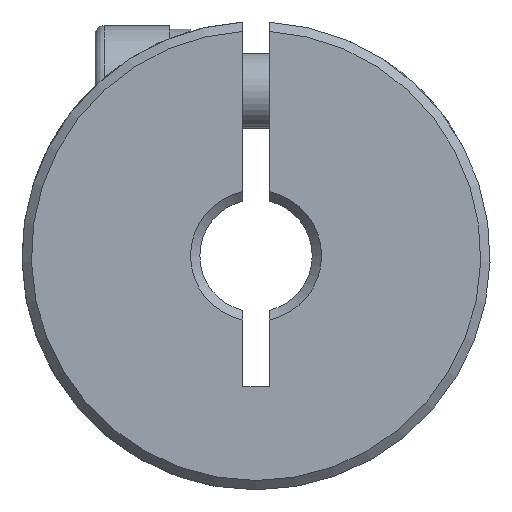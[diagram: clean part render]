
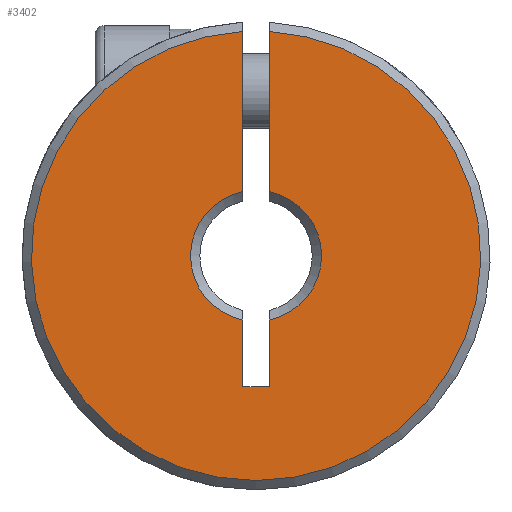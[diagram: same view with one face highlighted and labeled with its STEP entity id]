
A CAD part, front view. The second image highlights one B-rep face of the part: STEP entity #3402.
In plain terms, the highlighted planar face has unit normal (0, -1, 0).
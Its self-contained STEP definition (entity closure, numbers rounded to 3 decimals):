
#38 = CARTESIAN_POINT ( 'NONE',  ( 0., 0.25, 0. ) ) ;
#47 = VERTEX_POINT ( 'NONE', #1064 ) ;
#80 = LINE ( 'NONE', #1657, #2075 ) ;
#83 = EDGE_CURVE ( 'NONE', #47, #2705, #2264, .T. ) ;
#184 = VERTEX_POINT ( 'NONE', #598 ) ;
#257 = DIRECTION ( 'NONE',  ( 0., 0., 1. ) ) ;
#260 = AXIS2_PLACEMENT_3D ( 'NONE', #1603, #2936, #257 ) ;
#313 = ORIENTED_EDGE ( 'NONE', *, *, #3480, .F. ) ;
#388 = VERTEX_POINT ( 'NONE', #3112 ) ;
#410 = LINE ( 'NONE', #517, #2597 ) ;
#465 = VECTOR ( 'NONE', #2831, 1000. ) ;
#511 = CARTESIAN_POINT ( 'NONE',  ( 0., 0.25, 0. ) ) ;
#517 = CARTESIAN_POINT ( 'NONE',  ( 0.7, 0.25, -7. ) ) ;
#530 = EDGE_CURVE ( 'NONE', #388, #2042, #2855, .T. ) ;
#557 = ORIENTED_EDGE ( 'NONE', *, *, #3104, .F. ) ;
#598 = CARTESIAN_POINT ( 'NONE',  ( -0.7, 0.25, -7. ) ) ;
#649 = ORIENTED_EDGE ( 'NONE', *, *, #1589, .F. ) ;
#694 = DIRECTION ( 'NONE',  ( 0., 0., 1. ) ) ;
#775 = AXIS2_PLACEMENT_3D ( 'NONE', #38, #1632, #3063 ) ;
#907 = EDGE_LOOP ( 'NONE', ( #649, #2830, #313, #557, #940, #2559, #989, #3327 ) ) ;
#940 = ORIENTED_EDGE ( 'NONE', *, *, #3361, .F. ) ;
#955 = AXIS2_PLACEMENT_3D ( 'NONE', #511, #2916, #2661 ) ;
#957 = CARTESIAN_POINT ( 'NONE',  ( -0.7, 0.25, -7. ) ) ;
#984 = CARTESIAN_POINT ( 'NONE',  ( 0.7, 0.25, -7. ) ) ;
#989 = ORIENTED_EDGE ( 'NONE', *, *, #1449, .F. ) ;
#1009 = CARTESIAN_POINT ( 'NONE',  ( -0.7, 0.25, -3.429 ) ) ;
#1064 = CARTESIAN_POINT ( 'NONE',  ( 0.7, 0.25, 3.429 ) ) ;
#1197 = LINE ( 'NONE', #957, #465 ) ;
#1261 = AXIS2_PLACEMENT_3D ( 'NONE', #3086, #2285, #694 ) ;
#1386 = LINE ( 'NONE', #2805, #2256 ) ;
#1439 = VECTOR ( 'NONE', #1817, 1000. ) ;
#1449 = EDGE_CURVE ( 'NONE', #388, #2927, #1197, .T. ) ;
#1556 = VERTEX_POINT ( 'NONE', #2390 ) ;
#1589 = EDGE_CURVE ( 'NONE', #47, #2042, #80, .T. ) ;
#1603 = CARTESIAN_POINT ( 'NONE',  ( 0., 0.25, 0. ) ) ;
#1632 = DIRECTION ( 'NONE',  ( 0., 1., 0. ) ) ;
#1657 = CARTESIAN_POINT ( 'NONE',  ( 0.7, 0.25, -7. ) ) ;
#1686 = DIRECTION ( 'NONE',  ( 0., 0., -1. ) ) ;
#1817 = DIRECTION ( 'NONE',  ( 0., 0., 1. ) ) ;
#1845 = CARTESIAN_POINT ( 'NONE',  ( 0.7, 0.25, 11.98 ) ) ;
#2038 = PLANE ( 'NONE',  #1261 ) ;
#2042 = VERTEX_POINT ( 'NONE', #1845 ) ;
#2072 = VERTEX_POINT ( 'NONE', #1009 ) ;
#2075 = VECTOR ( 'NONE', #2456, 1000. ) ;
#2106 = CIRCLE ( 'NONE', #775, 3.5 ) ;
#2256 = VECTOR ( 'NONE', #1686, 1000. ) ;
#2264 = CIRCLE ( 'NONE', #955, 3.5 ) ;
#2285 = DIRECTION ( 'NONE',  ( 0., 1., 0. ) ) ;
#2390 = CARTESIAN_POINT ( 'NONE',  ( 0.7, 0.25, -7. ) ) ;
#2456 = DIRECTION ( 'NONE',  ( 0., 0., 1. ) ) ;
#2463 = CARTESIAN_POINT ( 'NONE',  ( -0.7, 0.25, 3.429 ) ) ;
#2559 = ORIENTED_EDGE ( 'NONE', *, *, #3231, .T. ) ;
#2597 = VECTOR ( 'NONE', #3203, 1000. ) ;
#2661 = DIRECTION ( 'NONE',  ( 0., 0., 1. ) ) ;
#2705 = VERTEX_POINT ( 'NONE', #2837 ) ;
#2805 = CARTESIAN_POINT ( 'NONE',  ( -0.7, 0.25, -7. ) ) ;
#2830 = ORIENTED_EDGE ( 'NONE', *, *, #83, .T. ) ;
#2831 = DIRECTION ( 'NONE',  ( 0., 0., -1. ) ) ;
#2837 = CARTESIAN_POINT ( 'NONE',  ( 0.7, 0.25, -3.429 ) ) ;
#2855 = CIRCLE ( 'NONE', #260, 12. ) ;
#2916 = DIRECTION ( 'NONE',  ( 0., 1., 0. ) ) ;
#2927 = VERTEX_POINT ( 'NONE', #2463 ) ;
#2936 = DIRECTION ( 'NONE',  ( 0., -1., 0. ) ) ;
#3016 = LINE ( 'NONE', #984, #1439 ) ;
#3063 = DIRECTION ( 'NONE',  ( 0., 0., 1. ) ) ;
#3086 = CARTESIAN_POINT ( 'NONE',  ( 12.5, 0.25, -50. ) ) ;
#3104 = EDGE_CURVE ( 'NONE', #184, #1556, #410, .T. ) ;
#3112 = CARTESIAN_POINT ( 'NONE',  ( -0.7, 0.25, 11.98 ) ) ;
#3137 = FACE_OUTER_BOUND ( 'NONE', #907, .T. ) ;
#3203 = DIRECTION ( 'NONE',  ( 1., 0., 0. ) ) ;
#3231 = EDGE_CURVE ( 'NONE', #2072, #2927, #2106, .T. ) ;
#3327 = ORIENTED_EDGE ( 'NONE', *, *, #530, .T. ) ;
#3361 = EDGE_CURVE ( 'NONE', #2072, #184, #1386, .T. ) ;
#3402 = ADVANCED_FACE ( 'NONE', ( #3137 ), #2038, .F. ) ;
#3480 = EDGE_CURVE ( 'NONE', #1556, #2705, #3016, .T. ) ;
